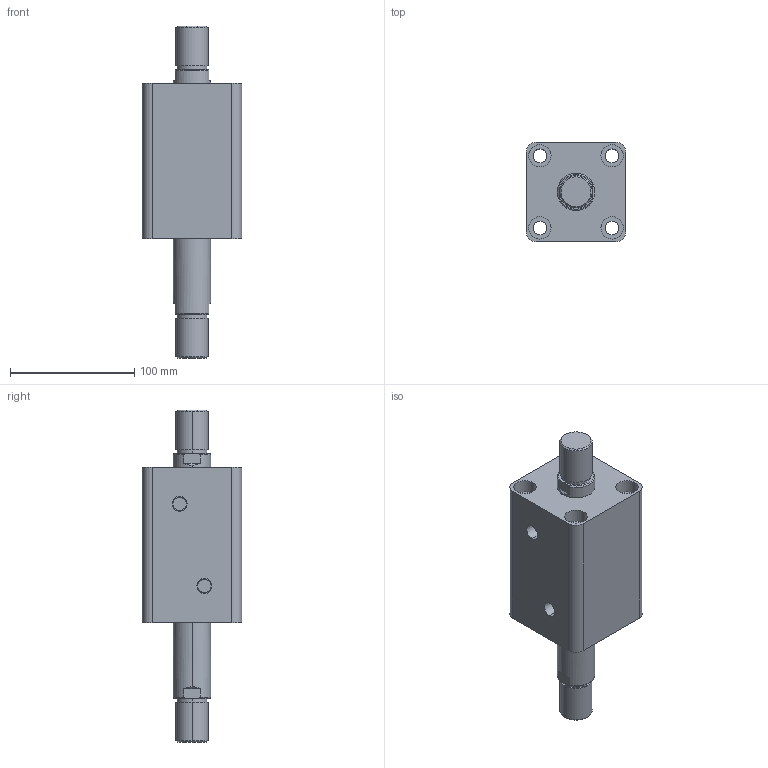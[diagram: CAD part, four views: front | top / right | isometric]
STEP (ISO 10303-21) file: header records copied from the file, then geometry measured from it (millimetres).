
FILE_DESCRIPTION (( 'STEP AP203' ), '1' );
FILE_NAME ('HTB-SW50-50W.STEP', '2019-10-07T09:21:17', ( '微软用户' ), ( '微软中国' ), 'SwSTEP 2.0', 'SolidWorks 2012', '' );
FILE_SCHEMA (( 'CONFIG_CONTROL_DESIGN' ));
Length unit declared in the file: millimetre
Products named in the file (3): HTB-SW50-50W; HTB-SW50-50W活塞杆; HTB-SW50-50掛极
Assembly tree (2 placements, depth 2):
  HTB-SW50-50W
    HTB-SW50-50掛极
    HTB-SW50-50W活塞杆
Bounding box: 80 x 80 x 267 mm (x, y, z)
Volume: 753719.2 mm3; surface area: 117051 mm2
Topology: 2 solids, 2 shells, 108 faces, 240 edges, 156 vertices
Faces by surface type: cylinder 52, plane 36, torus 12, cone 8
Entity records: 3449 total; most frequent: CARTESIAN_POINT 629, DIRECTION 586, ORIENTED_EDGE 480, AXIS2_PLACEMENT_3D 249, EDGE_CURVE 240, VERTEX_POINT 156, EDGE_LOOP 138, CIRCLE 136
